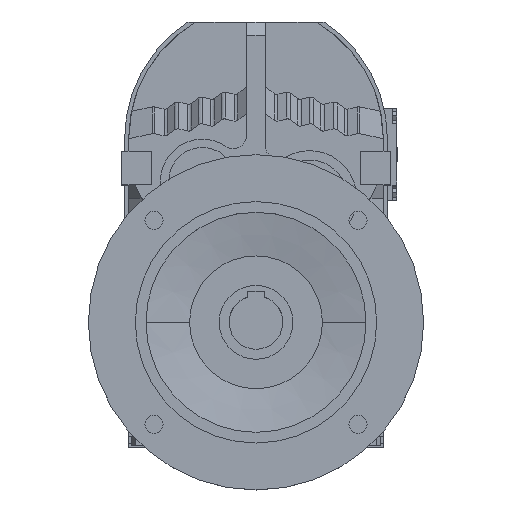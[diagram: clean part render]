
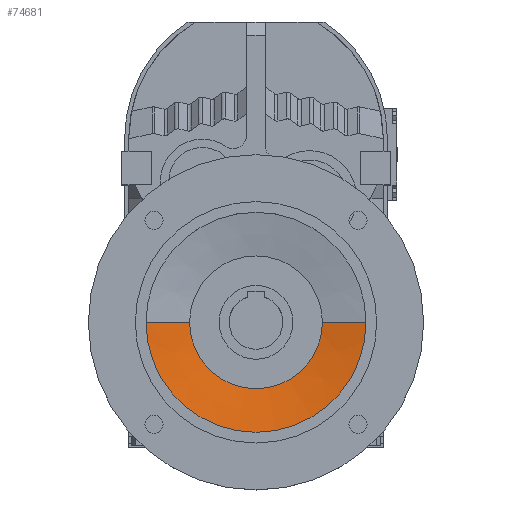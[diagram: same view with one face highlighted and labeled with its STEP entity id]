
A CAD part, top view. The second image highlights one B-rep face of the part: STEP entity #74681.
In plain terms, the highlighted conical face has half-angle 80.395 degrees and reference radius 82 mm.
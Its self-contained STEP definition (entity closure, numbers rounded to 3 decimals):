
#74318 = CYLINDRICAL_SURFACE('',#74319,82.);
#74319 = AXIS2_PLACEMENT_3D('',#74320,#74321,#74322);
#74320 = CARTESIAN_POINT('',(0.,-136.,0.));
#74321 = DIRECTION('',(0.,0.,-1.));
#74322 = DIRECTION('',(-1.,0.,0.));
#74385 = CYLINDRICAL_SURFACE('',#74386,49.5);
#74386 = AXIS2_PLACEMENT_3D('',#74387,#74388,#74389);
#74387 = CARTESIAN_POINT('',(0.,-136.,0.));
#74388 = DIRECTION('',(0.,0.,-1.));
#74389 = DIRECTION('',(-1.,0.,0.));
#74401 = VERTEX_POINT('',#74402);
#74402 = CARTESIAN_POINT('',(-82.,-136.,167.5));
#74421 = EDGE_CURVE('',#74422,#74401,#74424,.T.);
#74422 = VERTEX_POINT('',#74423);
#74423 = CARTESIAN_POINT('',(82.,-136.,167.5));
#74424 = SURFACE_CURVE('',#74425,(#74430,#74436),.PCURVE_S1.);
#74425 = CIRCLE('',#74426,82.);
#74426 = AXIS2_PLACEMENT_3D('',#74427,#74428,#74429);
#74427 = CARTESIAN_POINT('',(0.,-136.,167.5));
#74428 = DIRECTION('',(0.,0.,-1.));
#74429 = DIRECTION('',(-1.,0.,0.));
#74430 = PCURVE('',#74318,#74431);
#74431 = DEFINITIONAL_REPRESENTATION('',(#74432),#74435);
#74432 = B_SPLINE_CURVE_WITH_KNOTS('',1,(#74433,#74434),.UNSPECIFIED.,
  .F.,.F.,(2,2),(3.142,6.283),.PIECEWISE_BEZIER_KNOTS.);
#74433 = CARTESIAN_POINT('',(3.142,-167.5));
#74434 = CARTESIAN_POINT('',(6.283,-167.5));
#74435 = ( GEOMETRIC_REPRESENTATION_CONTEXT(2) 
PARAMETRIC_REPRESENTATION_CONTEXT() REPRESENTATION_CONTEXT('2D SPACE',''
  ) );
#74436 = PCURVE('',#74437,#74442);
#74437 = CONICAL_SURFACE('',#74438,82.,1.403);
#74438 = AXIS2_PLACEMENT_3D('',#74439,#74440,#74441);
#74439 = CARTESIAN_POINT('',(0.,-136.,167.5));
#74440 = DIRECTION('',(0.,0.,1.));
#74441 = DIRECTION('',(1.,0.,0.));
#74442 = DEFINITIONAL_REPRESENTATION('',(#74443),#74469);
#74443 = B_SPLINE_CURVE_WITH_KNOTS('',3,(#74444,#74445,#74446,#74447,
    #74448,#74449,#74450,#74451,#74452,#74453,#74454,#74455,#74456,
    #74457,#74458,#74459,#74460,#74461,#74462,#74463,#74464,#74465,
    #74466,#74467,#74468),.UNSPECIFIED.,.F.,.F.,(4,1,1,1,1,1,1,1,1,1,1,1
    ,1,1,1,1,1,1,1,1,1,1,4),(3.142,3.284,3.427
    ,3.57,3.713,3.856,3.998,
    4.141,4.284,4.427,4.57,
    4.712,4.855,4.998,5.141,
    5.284,5.426,5.569,5.712,
    5.855,5.998,6.14,6.283),
  .QUASI_UNIFORM_KNOTS.);
#74444 = CARTESIAN_POINT('',(6.283,0.));
#74445 = CARTESIAN_POINT('',(6.236,0.));
#74446 = CARTESIAN_POINT('',(6.14,0.));
#74447 = CARTESIAN_POINT('',(5.998,0.));
#74448 = CARTESIAN_POINT('',(5.855,0.));
#74449 = CARTESIAN_POINT('',(5.712,0.));
#74450 = CARTESIAN_POINT('',(5.569,0.));
#74451 = CARTESIAN_POINT('',(5.426,0.));
#74452 = CARTESIAN_POINT('',(5.284,0.));
#74453 = CARTESIAN_POINT('',(5.141,0.));
#74454 = CARTESIAN_POINT('',(4.998,0.));
#74455 = CARTESIAN_POINT('',(4.855,0.));
#74456 = CARTESIAN_POINT('',(4.712,0.));
#74457 = CARTESIAN_POINT('',(4.57,0.));
#74458 = CARTESIAN_POINT('',(4.427,0.));
#74459 = CARTESIAN_POINT('',(4.284,0.));
#74460 = CARTESIAN_POINT('',(4.141,0.));
#74461 = CARTESIAN_POINT('',(3.998,0.));
#74462 = CARTESIAN_POINT('',(3.856,0.));
#74463 = CARTESIAN_POINT('',(3.713,0.));
#74464 = CARTESIAN_POINT('',(3.57,0.));
#74465 = CARTESIAN_POINT('',(3.427,0.));
#74466 = CARTESIAN_POINT('',(3.284,0.));
#74467 = CARTESIAN_POINT('',(3.189,0.));
#74468 = CARTESIAN_POINT('',(3.142,0.));
#74469 = ( GEOMETRIC_REPRESENTATION_CONTEXT(2) 
PARAMETRIC_REPRESENTATION_CONTEXT() REPRESENTATION_CONTEXT('2D SPACE',''
  ) );
#74508 = CONICAL_SURFACE('',#74509,82.,1.403);
#74509 = AXIS2_PLACEMENT_3D('',#74510,#74511,#74512);
#74510 = CARTESIAN_POINT('',(0.,-136.,167.5));
#74511 = DIRECTION('',(0.,0.,1.));
#74512 = DIRECTION('',(1.,0.,0.));
#74548 = VERTEX_POINT('',#74549);
#74549 = CARTESIAN_POINT('',(49.5,-136.,162.));
#74570 = VERTEX_POINT('',#74571);
#74571 = CARTESIAN_POINT('',(-49.5,-136.,162.));
#74636 = EDGE_CURVE('',#74548,#74570,#74637,.T.);
#74637 = SURFACE_CURVE('',#74638,(#74643,#74649),.PCURVE_S1.);
#74638 = CIRCLE('',#74639,49.5);
#74639 = AXIS2_PLACEMENT_3D('',#74640,#74641,#74642);
#74640 = CARTESIAN_POINT('',(0.,-136.,162.));
#74641 = DIRECTION('',(0.,0.,-1.));
#74642 = DIRECTION('',(-1.,0.,0.));
#74643 = PCURVE('',#74385,#74644);
#74644 = DEFINITIONAL_REPRESENTATION('',(#74645),#74648);
#74645 = B_SPLINE_CURVE_WITH_KNOTS('',1,(#74646,#74647),.UNSPECIFIED.,
  .F.,.F.,(2,2),(3.142,6.283),.PIECEWISE_BEZIER_KNOTS.);
#74646 = CARTESIAN_POINT('',(3.142,-162.));
#74647 = CARTESIAN_POINT('',(6.283,-162.));
#74648 = ( GEOMETRIC_REPRESENTATION_CONTEXT(2) 
PARAMETRIC_REPRESENTATION_CONTEXT() REPRESENTATION_CONTEXT('2D SPACE',''
  ) );
#74649 = PCURVE('',#74437,#74650);
#74650 = DEFINITIONAL_REPRESENTATION('',(#74651),#74677);
#74651 = B_SPLINE_CURVE_WITH_KNOTS('',3,(#74652,#74653,#74654,#74655,
    #74656,#74657,#74658,#74659,#74660,#74661,#74662,#74663,#74664,
    #74665,#74666,#74667,#74668,#74669,#74670,#74671,#74672,#74673,
    #74674,#74675,#74676),.UNSPECIFIED.,.F.,.F.,(4,1,1,1,1,1,1,1,1,1,1,1
    ,1,1,1,1,1,1,1,1,1,1,4),(3.142,3.284,3.427
    ,3.57,3.713,3.856,3.998,
    4.141,4.284,4.427,4.57,
    4.712,4.855,4.998,5.141,
    5.284,5.426,5.569,5.712,
    5.855,5.998,6.14,6.283),
  .QUASI_UNIFORM_KNOTS.);
#74652 = CARTESIAN_POINT('',(6.283,-5.5));
#74653 = CARTESIAN_POINT('',(6.236,-5.5));
#74654 = CARTESIAN_POINT('',(6.14,-5.5));
#74655 = CARTESIAN_POINT('',(5.998,-5.5));
#74656 = CARTESIAN_POINT('',(5.855,-5.5));
#74657 = CARTESIAN_POINT('',(5.712,-5.5));
#74658 = CARTESIAN_POINT('',(5.569,-5.5));
#74659 = CARTESIAN_POINT('',(5.426,-5.5));
#74660 = CARTESIAN_POINT('',(5.284,-5.5));
#74661 = CARTESIAN_POINT('',(5.141,-5.5));
#74662 = CARTESIAN_POINT('',(4.998,-5.5));
#74663 = CARTESIAN_POINT('',(4.855,-5.5));
#74664 = CARTESIAN_POINT('',(4.712,-5.5));
#74665 = CARTESIAN_POINT('',(4.57,-5.5));
#74666 = CARTESIAN_POINT('',(4.427,-5.5));
#74667 = CARTESIAN_POINT('',(4.284,-5.5));
#74668 = CARTESIAN_POINT('',(4.141,-5.5));
#74669 = CARTESIAN_POINT('',(3.998,-5.5));
#74670 = CARTESIAN_POINT('',(3.856,-5.5));
#74671 = CARTESIAN_POINT('',(3.713,-5.5));
#74672 = CARTESIAN_POINT('',(3.57,-5.5));
#74673 = CARTESIAN_POINT('',(3.427,-5.5));
#74674 = CARTESIAN_POINT('',(3.284,-5.5));
#74675 = CARTESIAN_POINT('',(3.189,-5.5));
#74676 = CARTESIAN_POINT('',(3.142,-5.5));
#74677 = ( GEOMETRIC_REPRESENTATION_CONTEXT(2) 
PARAMETRIC_REPRESENTATION_CONTEXT() REPRESENTATION_CONTEXT('2D SPACE',''
  ) );
#74681 = ADVANCED_FACE('',(#74682),#74437,.F.);
#74682 = FACE_BOUND('',#74683,.F.);
#74683 = EDGE_LOOP('',(#74684,#74685,#74704,#74705));
#74684 = ORIENTED_EDGE('',*,*,#74636,.F.);
#74685 = ORIENTED_EDGE('',*,*,#74686,.T.);
#74686 = EDGE_CURVE('',#74548,#74422,#74687,.T.);
#74687 = SURFACE_CURVE('',#74688,(#74692,#74698),.PCURVE_S1.);
#74688 = LINE('',#74689,#74690);
#74689 = CARTESIAN_POINT('',(82.,-136.,167.5));
#74690 = VECTOR('',#74691,1.);
#74691 = DIRECTION('',(0.986,0.,0.167));
#74692 = PCURVE('',#74437,#74693);
#74693 = DEFINITIONAL_REPRESENTATION('',(#74694),#74697);
#74694 = B_SPLINE_CURVE_WITH_KNOTS('',1,(#74695,#74696),.UNSPECIFIED.,
  .F.,.F.,(2,2),(-32.962,0.),.PIECEWISE_BEZIER_KNOTS.);
#74695 = CARTESIAN_POINT('',(6.283,-5.5));
#74696 = CARTESIAN_POINT('',(6.283,0.));
#74697 = ( GEOMETRIC_REPRESENTATION_CONTEXT(2) 
PARAMETRIC_REPRESENTATION_CONTEXT() REPRESENTATION_CONTEXT('2D SPACE',''
  ) );
#74698 = PCURVE('',#74508,#74699);
#74699 = DEFINITIONAL_REPRESENTATION('',(#74700),#74703);
#74700 = B_SPLINE_CURVE_WITH_KNOTS('',1,(#74701,#74702),.UNSPECIFIED.,
  .F.,.F.,(2,2),(-32.962,0.),.PIECEWISE_BEZIER_KNOTS.);
#74701 = CARTESIAN_POINT('',(0.,-5.5));
#74702 = CARTESIAN_POINT('',(0.,0.));
#74703 = ( GEOMETRIC_REPRESENTATION_CONTEXT(2) 
PARAMETRIC_REPRESENTATION_CONTEXT() REPRESENTATION_CONTEXT('2D SPACE',''
  ) );
#74704 = ORIENTED_EDGE('',*,*,#74421,.T.);
#74705 = ORIENTED_EDGE('',*,*,#74706,.F.);
#74706 = EDGE_CURVE('',#74570,#74401,#74707,.T.);
#74707 = SURFACE_CURVE('',#74708,(#74712,#74718),.PCURVE_S1.);
#74708 = LINE('',#74709,#74710);
#74709 = CARTESIAN_POINT('',(-82.,-136.,167.5));
#74710 = VECTOR('',#74711,1.);
#74711 = DIRECTION('',(-0.986,0.,
    0.167));
#74712 = PCURVE('',#74437,#74713);
#74713 = DEFINITIONAL_REPRESENTATION('',(#74714),#74717);
#74714 = B_SPLINE_CURVE_WITH_KNOTS('',1,(#74715,#74716),.UNSPECIFIED.,
  .F.,.F.,(2,2),(-32.962,0.),.PIECEWISE_BEZIER_KNOTS.);
#74715 = CARTESIAN_POINT('',(3.142,-5.5));
#74716 = CARTESIAN_POINT('',(3.142,0.));
#74717 = ( GEOMETRIC_REPRESENTATION_CONTEXT(2) 
PARAMETRIC_REPRESENTATION_CONTEXT() REPRESENTATION_CONTEXT('2D SPACE',''
  ) );
#74718 = PCURVE('',#74508,#74719);
#74719 = DEFINITIONAL_REPRESENTATION('',(#74720),#74723);
#74720 = B_SPLINE_CURVE_WITH_KNOTS('',1,(#74721,#74722),.UNSPECIFIED.,
  .F.,.F.,(2,2),(-32.962,0.),.PIECEWISE_BEZIER_KNOTS.);
#74721 = CARTESIAN_POINT('',(3.142,-5.5));
#74722 = CARTESIAN_POINT('',(3.142,0.));
#74723 = ( GEOMETRIC_REPRESENTATION_CONTEXT(2) 
PARAMETRIC_REPRESENTATION_CONTEXT() REPRESENTATION_CONTEXT('2D SPACE',''
  ) );
